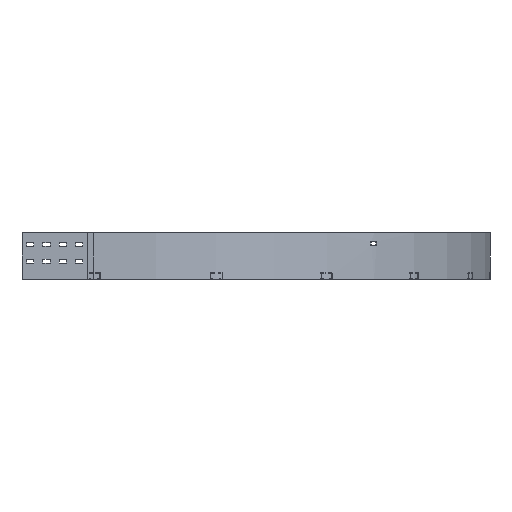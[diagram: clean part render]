
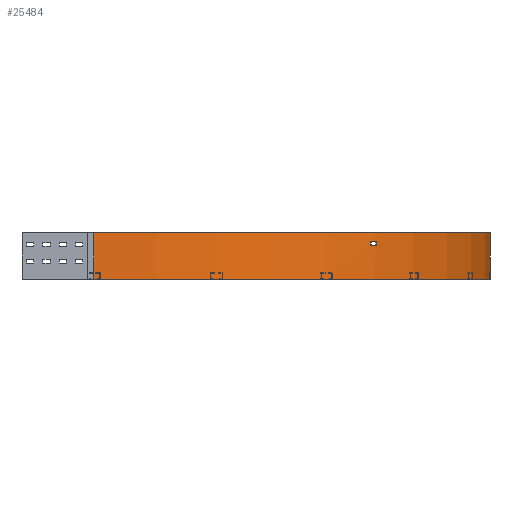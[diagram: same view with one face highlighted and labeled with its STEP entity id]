
A CAD part, front view. The second image highlights one B-rep face of the part: STEP entity #25484.
In plain terms, the highlighted cylindrical face has radius 1211 mm (diameter 2422 mm), a partial arc.
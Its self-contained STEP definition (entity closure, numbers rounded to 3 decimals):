
#635=FACE_BOUND('',#3700,.T.);
#1195=CYLINDRICAL_SURFACE('',#26807,1211.);
#1228=CIRCLE('',#26799,1211.);
#1233=CIRCLE('',#26806,1211.);
#1234=CIRCLE('',#26808,1211.);
#1235=CIRCLE('',#26809,1211.);
#2402=FACE_OUTER_BOUND('',#3699,.T.);
#3699=EDGE_LOOP('',(#17216,#17217,#17218,#17219));
#3700=EDGE_LOOP('',(#17220,#17221,#17222,#17223));
#5555=LINE('',#35245,#8191);
#5561=LINE('',#35269,#8197);
#5562=LINE('',#35274,#8198);
#5563=LINE('',#35277,#8199);
#8191=VECTOR('',#28762,304.8);
#8197=VECTOR('',#28788,304.8);
#8198=VECTOR('',#28791,304.8);
#8199=VECTOR('',#28794,304.8);
#10824=VERTEX_POINT('',#35238);
#10827=VERTEX_POINT('',#35243);
#10828=VERTEX_POINT('',#35247);
#10835=VERTEX_POINT('',#35265);
#10836=VERTEX_POINT('',#35270);
#10837=VERTEX_POINT('',#35271);
#10838=VERTEX_POINT('',#35273);
#10839=VERTEX_POINT('',#35275);
#13371=EDGE_CURVE('',#10827,#10824,#5555,.T.);
#13372=EDGE_CURVE('',#10824,#10828,#1228,.T.);
#13382=EDGE_CURVE('',#10835,#10827,#1233,.T.);
#13383=EDGE_CURVE('',#10828,#10835,#5561,.T.);
#13384=EDGE_CURVE('',#10836,#10837,#1234,.T.);
#13385=EDGE_CURVE('',#10837,#10838,#5562,.T.);
#13386=EDGE_CURVE('',#10838,#10839,#1235,.T.);
#13387=EDGE_CURVE('',#10839,#10836,#5563,.T.);
#17216=ORIENTED_EDGE('',*,*,#13371,.F.);
#17217=ORIENTED_EDGE('',*,*,#13382,.F.);
#17218=ORIENTED_EDGE('',*,*,#13383,.F.);
#17219=ORIENTED_EDGE('',*,*,#13372,.F.);
#17220=ORIENTED_EDGE('',*,*,#13384,.T.);
#17221=ORIENTED_EDGE('',*,*,#13385,.T.);
#17222=ORIENTED_EDGE('',*,*,#13386,.T.);
#17223=ORIENTED_EDGE('',*,*,#13387,.T.);
#25484=ADVANCED_FACE('',(#2402,#635),#1195,.T.);
#26799=AXIS2_PLACEMENT_3D('',#35248,#28765,#28766);
#26806=AXIS2_PLACEMENT_3D('',#35267,#28784,#28785);
#26807=AXIS2_PLACEMENT_3D('',#35268,#28786,#28787);
#26808=AXIS2_PLACEMENT_3D('',#35272,#28789,#28790);
#26809=AXIS2_PLACEMENT_3D('',#35276,#28792,#28793);
#28762=DIRECTION('',(0.,0.,1.));
#28765=DIRECTION('center_axis',(0.,0.,1.));
#28766=DIRECTION('ref_axis',(0.,-1.,0.));
#28784=DIRECTION('center_axis',(0.,0.,-1.));
#28785=DIRECTION('ref_axis',(0.,-1.,0.));
#28786=DIRECTION('center_axis',(0.,0.,1.));
#28787=DIRECTION('ref_axis',(0.,-1.,0.));
#28788=DIRECTION('',(0.,0.,-1.));
#28789=DIRECTION('center_axis',(0.,0.,1.));
#28790=DIRECTION('ref_axis',(0.,-1.,0.));
#28791=DIRECTION('',(0.,0.,-1.));
#28792=DIRECTION('center_axis',(0.,0.,-1.));
#28793=DIRECTION('ref_axis',(0.,-1.,0.));
#28794=DIRECTION('',(0.,0.,1.));
#35238=CARTESIAN_POINT('',(-755.5,-455.5,71.));
#35243=CARTESIAN_POINT('',(-755.5,-455.5,-71.));
#35245=CARTESIAN_POINT('',(-755.5,-455.5,-71.));
#35247=CARTESIAN_POINT('',(455.5,755.5,71.));
#35248=CARTESIAN_POINT('Origin',(-755.5,755.5,71.));
#35265=CARTESIAN_POINT('',(455.5,755.5,-71.));
#35267=CARTESIAN_POINT('Origin',(-755.5,755.5,-71.));
#35268=CARTESIAN_POINT('Origin',(-755.5,755.5,0.));
#35269=CARTESIAN_POINT('',(455.5,755.5,71.));
#35270=CARTESIAN_POINT('',(93.109,-108.435,44.));
#35271=CARTESIAN_POINT('',(108.664,-92.876,44.));
#35272=CARTESIAN_POINT('Origin',(-755.5,755.5,44.));
#35273=CARTESIAN_POINT('',(108.664,-92.876,33.));
#35274=CARTESIAN_POINT('',(108.664,-92.876,44.));
#35275=CARTESIAN_POINT('',(93.109,-108.435,33.));
#35276=CARTESIAN_POINT('Origin',(-755.5,755.5,33.));
#35277=CARTESIAN_POINT('',(93.109,-108.435,33.));
